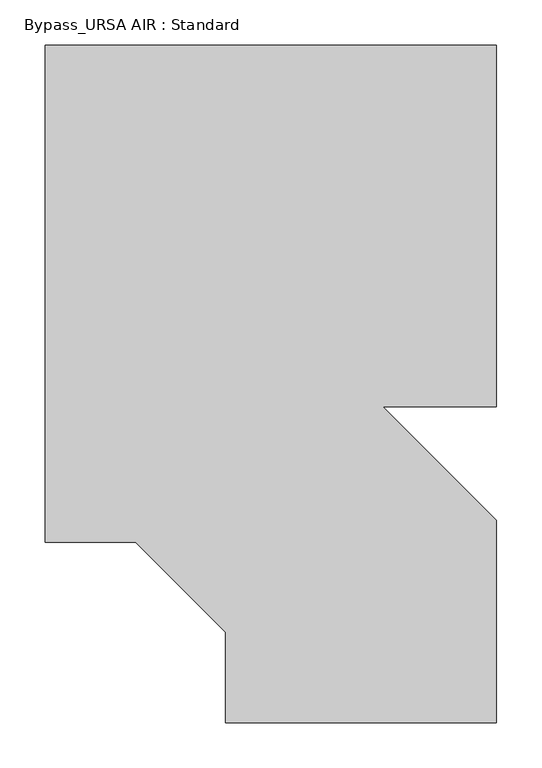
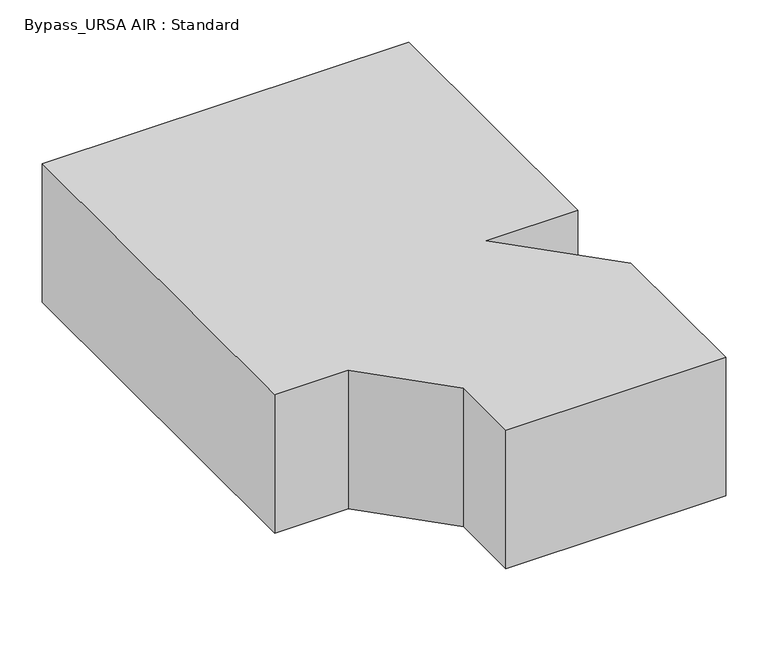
"""IFC4 building model written with IfcOpenShell, lengths in millimetres: duct fitting geometry, Bypass_URSA AIR : Standard."""

from ifc_helpers import new_model, si_unit, origin, place, context, project, spatial, faceted_brep, source, transform, mapped, element, save


def bypass_ursa_air_standard_1934f5ce(model_context):
    return source(origin(), model_context, "Body", "Brep", [
        faceted_brep([(-100.0, -312.5, 100.0), (-100.0, 237.5, 100.0), (-100.0, 237.5, -100.0), (-100.0, -312.5, -100.0), (0.0, -312.5, -100.0), (0.0151011, -312.5, 100.0), (400.0, 237.5, -100.0), (400.0, -162.5, -100.0), (274.2791699, -162.5, -100.0), (400.0, -288.2208301, -100.0), (400.0, -512.5, -100.0), (100.0, -512.5, -100.0), (100.0, -412.4848989, -100.0), (400.0, 237.5, 100.0), (100.0, -412.4848989, 100.0), (100.0, -512.5, 100.0), (400.0, -512.5, 100.0), (400.0, -288.2208301, 100.0), (274.2791699, -162.5, 100.0), (400.0, -162.5, 100.0)], [[[0, 1, 2, 3]], [[0, 3, 4, 5]], [[3, 2, 6, 7, 8, 9, 10, 11, 12, 4]], [[2, 1, 13, 6]], [[1, 0, 5, 14, 15, 16, 17, 18, 19, 13]], [[13, 19, 7, 6]], [[7, 19, 18, 8]], [[11, 10, 16, 15]], [[16, 10, 9, 17]], [[11, 15, 14, 12]], [[17, 9, 8, 18]], [[4, 12, 14, 5]]]),
    ])


if __name__ == "__main__":
    model = new_model("IFC4")
    model_context = context("Model", 3, world=origin())
    ifc_project = project(units=[si_unit("LENGTHUNIT", "METRE", prefix="MILLI")], contexts=[model_context])
    site = spatial("IfcSite", under=ifc_project)
    building = spatial("IfcBuilding", under=site)
    placement = place(None, origin())
    bypass_ursa_air_standard_shape = bypass_ursa_air_standard_1934f5ce(model_context)
    element("IfcDuctFitting", 1, ObjectType="Bypass_URSA AIR : Standard", at=placement, inside=building, context=model_context, shape_type="MappedRepresentation", body=[
        mapped(bypass_ursa_air_standard_shape, transform((0.0, 0.0, 0.0), x_axis=(1.0, 0.0, 0.0), y_axis=(0.0, 1.0, 0.0), z_axis=(0.0, 0.0, 1.0))),
    ])
    save(model, "model.ifc")
